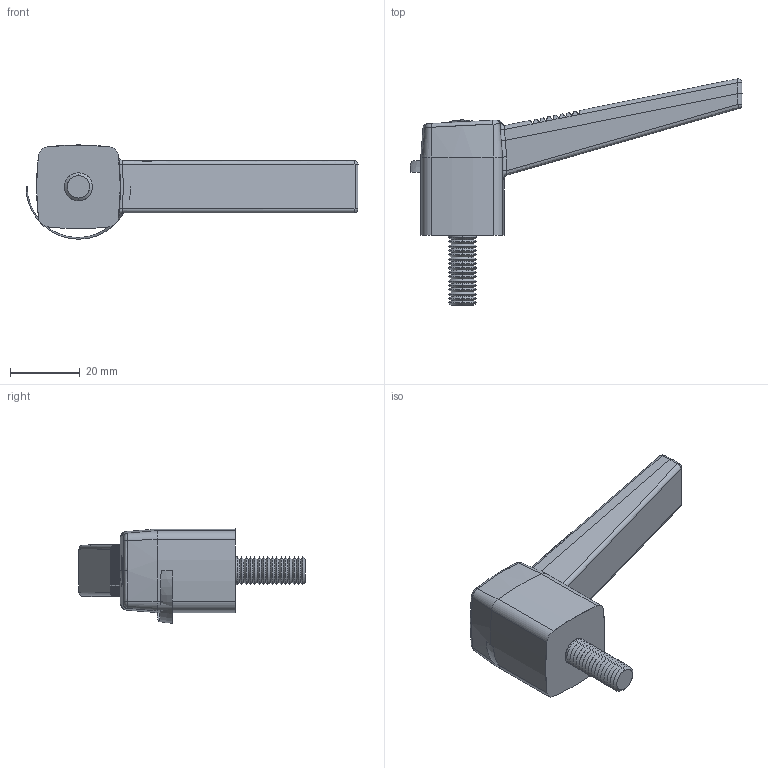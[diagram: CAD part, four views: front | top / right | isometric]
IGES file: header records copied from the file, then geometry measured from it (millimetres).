
Start section: SolidWorks IGES file using analytic representation for surfaces
Global section: file name: C:\Documents and Settings\IANO\Desktop\Temp File\Process pending\PCN pending\74970_v2\74970_v2_20161101_IGES\74970.W0080.igs; native system: SolidWorks 2009; preprocessor: SolidWorks 2009; author: IANO; date: 170306.084721; units: millimetre
Bounding box: 95 x 64.74 x 26.99 mm (x, y, z)
Surface area: 8829.9 mm2 (no closed solid volume)
Topology: 0 solids, 0 shells, 187 faces, 1517 edges, 1514 vertices
Faces by surface type: revolution 121, bspline 66
